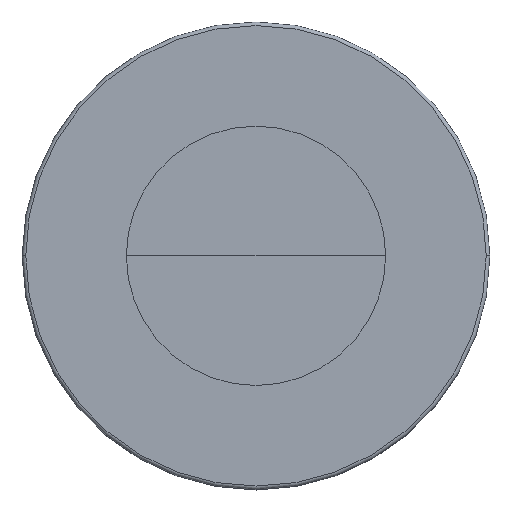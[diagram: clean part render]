
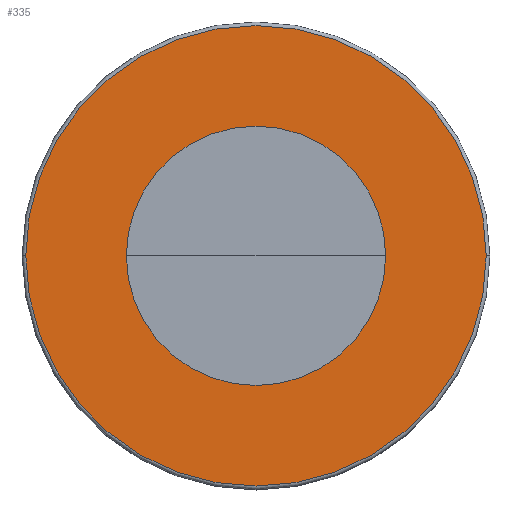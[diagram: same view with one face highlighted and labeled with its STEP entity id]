
A CAD part, top view. The second image highlights one B-rep face of the part: STEP entity #335.
In plain terms, the highlighted planar face has unit normal (0, 0, 1).
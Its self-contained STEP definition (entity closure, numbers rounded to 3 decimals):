
#9=CARTESIAN_POINT('',(0.,0.,3.186));
#10=DIRECTION('',(0.,0.,-1.));
#11=DIRECTION('',(1.,0.,0.));
#12=AXIS2_PLACEMENT_3D('',#9,#10,#11);
#14=CARTESIAN_POINT('',(0.,0.,3.186));
#15=DIRECTION('',(0.,0.,1.));
#16=DIRECTION('',(1.,0.,0.));
#17=AXIS2_PLACEMENT_3D('',#14,#15,#16);
#19=CARTESIAN_POINT('',(0.,0.,3.186));
#20=DIRECTION('',(0.,0.,-1.));
#21=DIRECTION('',(1.,0.,0.));
#22=AXIS2_PLACEMENT_3D('',#19,#20,#21);
#24=CARTESIAN_POINT('',(0.,0.,3.186));
#25=DIRECTION('',(0.,0.,-1.));
#26=DIRECTION('',(-1.,0.,0.));
#27=AXIS2_PLACEMENT_3D('',#24,#25,#26);
#254=CARTESIAN_POINT('',(1.805,0.,3.186));
#256=VERTEX_POINT('',#254);
#257=CARTESIAN_POINT('',(-1.805,0.,3.186));
#258=VERTEX_POINT('',#257);
#280=CARTESIAN_POINT('',(3.205,0.,3.186));
#281=CARTESIAN_POINT('',(-3.205,0.,3.186));
#282=VERTEX_POINT('',#280);
#283=VERTEX_POINT('',#281);
#320=CARTESIAN_POINT('',(0.,0.,3.186));
#321=DIRECTION('',(0.,0.,1.));
#322=DIRECTION('',(-1.,0.,0.));
#323=AXIS2_PLACEMENT_3D('',#320,#321,#322);
#324=PLANE('',#323);
#326=ORIENTED_EDGE('',*,*,#325,.T.);
#328=ORIENTED_EDGE('',*,*,#327,.T.);
#329=EDGE_LOOP('',(#326,#328));
#330=FACE_OUTER_BOUND('',#329,.F.);
#331=ORIENTED_EDGE('',*,*,#314,.F.);
#332=ORIENTED_EDGE('',*,*,#298,.T.);
#333=EDGE_LOOP('',(#331,#332));
#334=FACE_BOUND('',#333,.F.);
#335=ADVANCED_FACE('',(#330,#334),#324,.T.);
#13=CIRCLE('',#12,1.805);
#18=CIRCLE('',#17,1.805);
#23=CIRCLE('',#22,3.205);
#28=CIRCLE('',#27,3.205);
#298=EDGE_CURVE('',#256,#258,#18,.T.);
#314=EDGE_CURVE('',#256,#258,#13,.T.);
#325=EDGE_CURVE('',#282,#283,#23,.T.);
#327=EDGE_CURVE('',#283,#282,#28,.T.);
